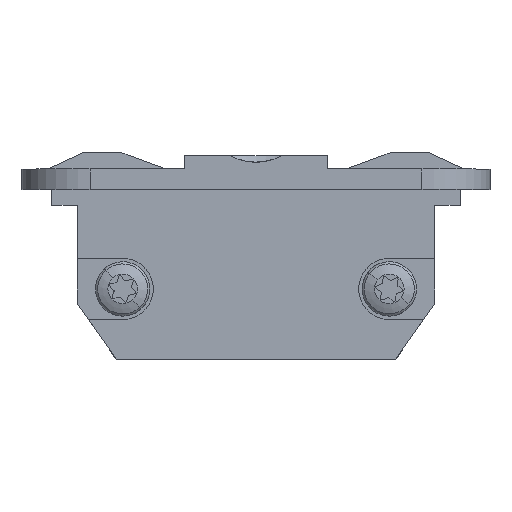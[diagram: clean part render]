
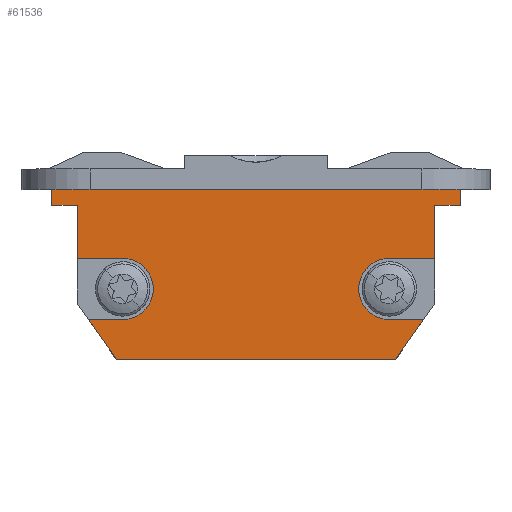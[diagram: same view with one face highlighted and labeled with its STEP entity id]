
A CAD part, top view. The second image highlights one B-rep face of the part: STEP entity #61536.
In plain terms, the highlighted planar face has unit normal (0, 0, 1) as drawn and (0, -1, 0) by its records, which use the part's own axes.
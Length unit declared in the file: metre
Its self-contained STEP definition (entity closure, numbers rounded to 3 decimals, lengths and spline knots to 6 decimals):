
#58156=CARTESIAN_POINT(' ',(-0.015,0.,0.0018));
#58157=VERTEX_POINT(' ',#58156);
#58171=CARTESIAN_POINT(' ',(0.015,0.,0.0018));
#58176=DIRECTION(' ',(-1.,0.,0.));
#58181=VECTOR(' ',#58176,1.);
#58186=LINE('',#58171,#58181);
#58191=CARTESIAN_POINT(' ',(0.015,0.,0.0018));
#58192=VERTEX_POINT(' ',#58191);
#58196=EDGE_CURVE(' ',#58192,#58157,#58186,.T.);
#60936=CARTESIAN_POINT(' ',(-0.015,0.,0.00065));
#60937=VERTEX_POINT(' ',#60936);
#60951=CARTESIAN_POINT(' ',(-0.015,0.,0.00065));
#60956=DIRECTION(' ',(0.,0.,1.));
#60961=VECTOR(' ',#60956,1.);
#60966=LINE('',#60951,#60961);
#60971=EDGE_CURVE(' ',#60937,#58157,#60966,.T.);
#60996=DIRECTION(' ',(-0.,-1.,-0.));
#61001=CARTESIAN_POINT(' ',(-0.015,0.,-0.01065));
#61006=DIRECTION(' ',(1.,0.,0.));
#61011=AXIS2_PLACEMENT_3D(' ',#61001,#60996,#61006);
#61016=PLANE('',#61011);
#61021=CARTESIAN_POINT(' ',(0.015,0.,0.00065));
#61026=DIRECTION(' ',(0.,0.,1.));
#61031=VECTOR(' ',#61026,1.);
#61036=LINE('',#61021,#61031);
#61041=CARTESIAN_POINT(' ',(0.015,0.,0.00065));
#61042=VERTEX_POINT(' ',#61041);
#61046=EDGE_CURVE(' ',#61042,#58192,#61036,.T.);
#61051=ORIENTED_EDGE(' ',*,*,#61046,.T.);
#61056=ORIENTED_EDGE(' ',*,*,#58196,.T.);
#61061=ORIENTED_EDGE(' ',*,*,#60971,.F.);
#61066=CARTESIAN_POINT(' ',(-0.01315,0.,0.00065));
#61071=DIRECTION(' ',(-1.,0.,0.));
#61076=VECTOR(' ',#61071,1.);
#61081=LINE('',#61066,#61076);
#61086=CARTESIAN_POINT(' ',(-0.01315,0.,0.00065));
#61087=VERTEX_POINT(' ',#61086);
#61091=EDGE_CURVE(' ',#61087,#60937,#61081,.T.);
#61096=ORIENTED_EDGE(' ',*,*,#61091,.F.);
#61101=CARTESIAN_POINT(' ',(-0.01315,0.,0.00065));
#61106=DIRECTION(' ',(0.,0.,-1.));
#61111=VECTOR(' ',#61106,1.);
#61116=LINE('',#61101,#61111);
#61121=CARTESIAN_POINT(' ',(-0.01315,0.,-0.00325));
#61122=VERTEX_POINT(' ',#61121);
#61126=EDGE_CURVE(' ',#61087,#61122,#61116,.T.);
#61131=ORIENTED_EDGE(' ',*,*,#61126,.T.);
#61136=CARTESIAN_POINT(' ',(-0.01315,0.,-0.00325));
#61141=DIRECTION(' ',(1.,0.,0.));
#61146=VECTOR(' ',#61141,1.);
#61151=LINE('',#61136,#61146);
#61156=CARTESIAN_POINT(' ',(-0.0098,0.,-0.00325));
#61157=VERTEX_POINT(' ',#61156);
#61161=EDGE_CURVE(' ',#61122,#61157,#61151,.T.);
#61166=ORIENTED_EDGE(' ',*,*,#61161,.T.);
#61171=CARTESIAN_POINT(' ',(-0.0098,0.,-0.0055));
#61176=DIRECTION(' ',(0.,1.,0.));
#61181=DIRECTION(' ',(0.,0.,1.));
#61186=AXIS2_PLACEMENT_3D(' ',#61171,#61176,#61181);
#61191=CIRCLE('',#61186,0.00225);
#61196=CARTESIAN_POINT(' ',(-0.0098,0.,-0.00775));
#61197=VERTEX_POINT(' ',#61196);
#61201=EDGE_CURVE(' ',#61157,#61197,#61191,.T.);
#61206=ORIENTED_EDGE(' ',*,*,#61201,.T.);
#61211=CARTESIAN_POINT(' ',(-0.0098,0.,-0.00775));
#61216=DIRECTION(' ',(-1.,0.,0.));
#61221=VECTOR(' ',#61216,1.);
#61226=LINE('',#61211,#61221);
#61231=CARTESIAN_POINT(' ',(-0.012314,0.,-0.00775));
#61232=VERTEX_POINT(' ',#61231);
#61236=EDGE_CURVE(' ',#61197,#61232,#61226,.T.);
#61241=ORIENTED_EDGE(' ',*,*,#61236,.T.);
#61246=CARTESIAN_POINT(' ',(-0.012314,0.,-0.00775));
#61251=DIRECTION(' ',(0.574,0.,-0.819));
#61256=VECTOR(' ',#61251,1.);
#61261=LINE('',#61246,#61256);
#61266=CARTESIAN_POINT(' ',(-0.010284,0.,-0.01065));
#61267=VERTEX_POINT(' ',#61266);
#61271=EDGE_CURVE(' ',#61232,#61267,#61261,.T.);
#61276=ORIENTED_EDGE(' ',*,*,#61271,.T.);
#61281=CARTESIAN_POINT(' ',(-0.010284,0.,-0.01065));
#61286=DIRECTION(' ',(1.,0.,0.));
#61291=VECTOR(' ',#61286,1.);
#61296=LINE('',#61281,#61291);
#61301=CARTESIAN_POINT(' ',(0.010284,0.,-0.01065));
#61302=VERTEX_POINT(' ',#61301);
#61306=EDGE_CURVE(' ',#61267,#61302,#61296,.T.);
#61311=ORIENTED_EDGE(' ',*,*,#61306,.T.);
#61316=CARTESIAN_POINT(' ',(0.010284,0.,-0.01065));
#61321=DIRECTION(' ',(0.574,0.,0.819));
#61326=VECTOR(' ',#61321,1.);
#61331=LINE('',#61316,#61326);
#61336=CARTESIAN_POINT(' ',(0.012314,0.,-0.00775));
#61337=VERTEX_POINT(' ',#61336);
#61341=EDGE_CURVE(' ',#61302,#61337,#61331,.T.);
#61346=ORIENTED_EDGE(' ',*,*,#61341,.T.);
#61351=CARTESIAN_POINT(' ',(0.012314,0.,-0.00775));
#61356=DIRECTION(' ',(-1.,0.,0.));
#61361=VECTOR(' ',#61356,1.);
#61366=LINE('',#61351,#61361);
#61371=CARTESIAN_POINT(' ',(0.0098,0.,-0.00775));
#61372=VERTEX_POINT(' ',#61371);
#61376=EDGE_CURVE(' ',#61337,#61372,#61366,.T.);
#61381=ORIENTED_EDGE(' ',*,*,#61376,.T.);
#61386=CARTESIAN_POINT(' ',(0.0098,0.,-0.0055));
#61391=DIRECTION(' ',(0.,1.,0.));
#61396=DIRECTION(' ',(0.,0.,-1.));
#61401=AXIS2_PLACEMENT_3D(' ',#61386,#61391,#61396);
#61406=CIRCLE('',#61401,0.00225);
#61411=CARTESIAN_POINT(' ',(0.0098,0.,-0.00325));
#61412=VERTEX_POINT(' ',#61411);
#61416=EDGE_CURVE(' ',#61372,#61412,#61406,.T.);
#61421=ORIENTED_EDGE(' ',*,*,#61416,.T.);
#61426=CARTESIAN_POINT(' ',(0.0098,0.,-0.00325));
#61431=DIRECTION(' ',(1.,0.,0.));
#61436=VECTOR(' ',#61431,1.);
#61441=LINE('',#61426,#61436);
#61446=CARTESIAN_POINT(' ',(0.01315,0.,-0.00325));
#61447=VERTEX_POINT(' ',#61446);
#61451=EDGE_CURVE(' ',#61412,#61447,#61441,.T.);
#61456=ORIENTED_EDGE(' ',*,*,#61451,.T.);
#61461=CARTESIAN_POINT(' ',(0.01315,0.,-0.00325));
#61466=DIRECTION(' ',(0.,0.,1.));
#61471=VECTOR(' ',#61466,1.);
#61476=LINE('',#61461,#61471);
#61481=CARTESIAN_POINT(' ',(0.01315,0.,0.00065));
#61482=VERTEX_POINT(' ',#61481);
#61486=EDGE_CURVE(' ',#61447,#61482,#61476,.T.);
#61491=ORIENTED_EDGE(' ',*,*,#61486,.T.);
#61496=CARTESIAN_POINT(' ',(0.01315,0.,0.00065));
#61501=DIRECTION(' ',(1.,0.,0.));
#61506=VECTOR(' ',#61501,1.);
#61511=LINE('',#61496,#61506);
#61516=EDGE_CURVE(' ',#61482,#61042,#61511,.T.);
#61521=ORIENTED_EDGE(' ',*,*,#61516,.T.);
#61526=EDGE_LOOP(' ',(#61051,#61056,#61061,#61096,#61131,#61166,#61206,#61241,#61276,#61311,#61346,#61381,#61421,#61456,#61491,#61521));
#61531=FACE_OUTER_BOUND(' ',#61526,.T.);
#61536=ADVANCED_FACE('',(#61531),#61016,.T.);
